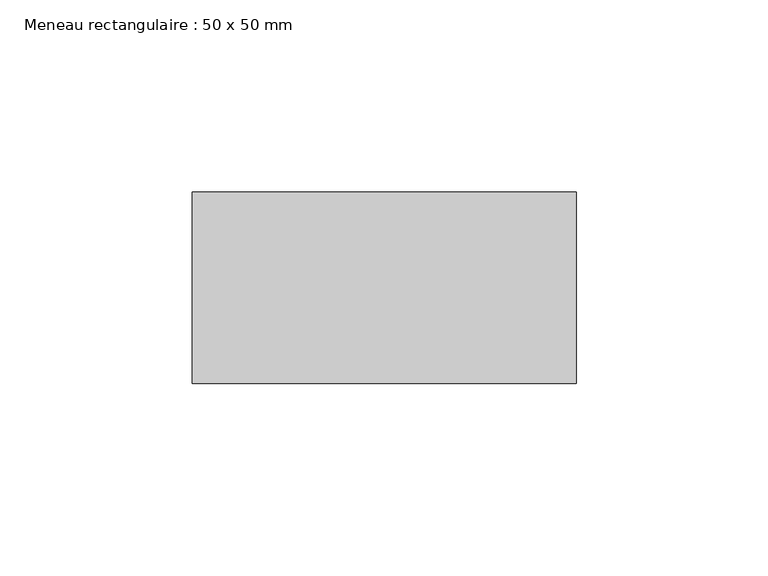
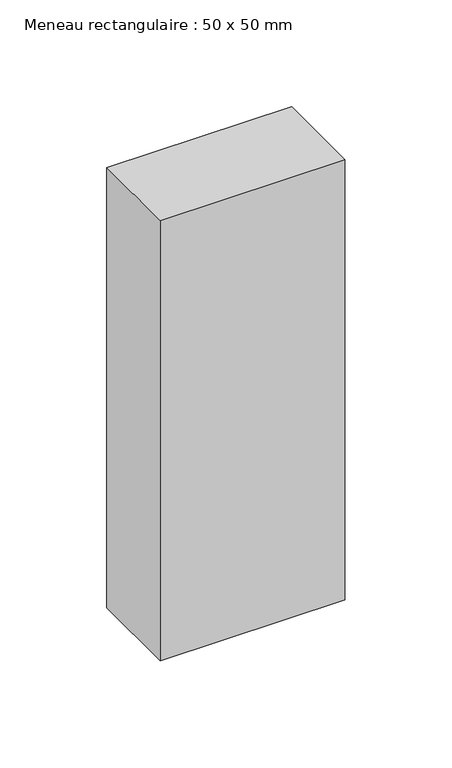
"""IFC4 building model written with IfcOpenShell, lengths in millimetres: member geometry, Meneau rectangulaire : 50 x 50 mm."""

from ifc_helpers import new_model, si_unit, frame, origin, place, context, project, spatial, polyline, outline, extrude, source, transform, mapped, element, save


def meneau_rectangulaire_50_x_50_mm_f0816310(model_context):
    return source(origin(), model_context, "Body", "SweptSolid", [
        extrude(outline(polyline([(0.0, 50.0), (0.0, 0.0), (-100.0, 0.0), (-100.0, 50.0), (0.0, 50.0)])), frame((0.0, 0.0, -251.7765941), z_axis=(0.0, 0.0, 1.0), x_axis=(1.0, 0.0, 0.0)), (0.0, 0.0, 1.0), 251.7765941),
    ])


if __name__ == "__main__":
    model = new_model("IFC4")
    model_context = context("Model", 3, world=origin())
    ifc_project = project(units=[si_unit("LENGTHUNIT", "METRE", prefix="MILLI")], contexts=[model_context])
    site = spatial("IfcSite", under=ifc_project)
    building = spatial("IfcBuilding", under=site)
    placement = place(None, origin())
    meneau_rectangulaire_50_x_50_mm_shape = meneau_rectangulaire_50_x_50_mm_f0816310(model_context)
    element("IfcMember", 1, ObjectType="Meneau rectangulaire : 50 x 50 mm", at=placement, inside=building, context=model_context, shape_type="MappedRepresentation", body=[
        mapped(meneau_rectangulaire_50_x_50_mm_shape, transform((0.0, 0.0, 0.0), x_axis=(1.0, 0.0, 0.0), y_axis=(0.0, 1.0, 0.0), z_axis=(0.0, 0.0, 1.0))),
    ])
    save(model, "model.ifc")
